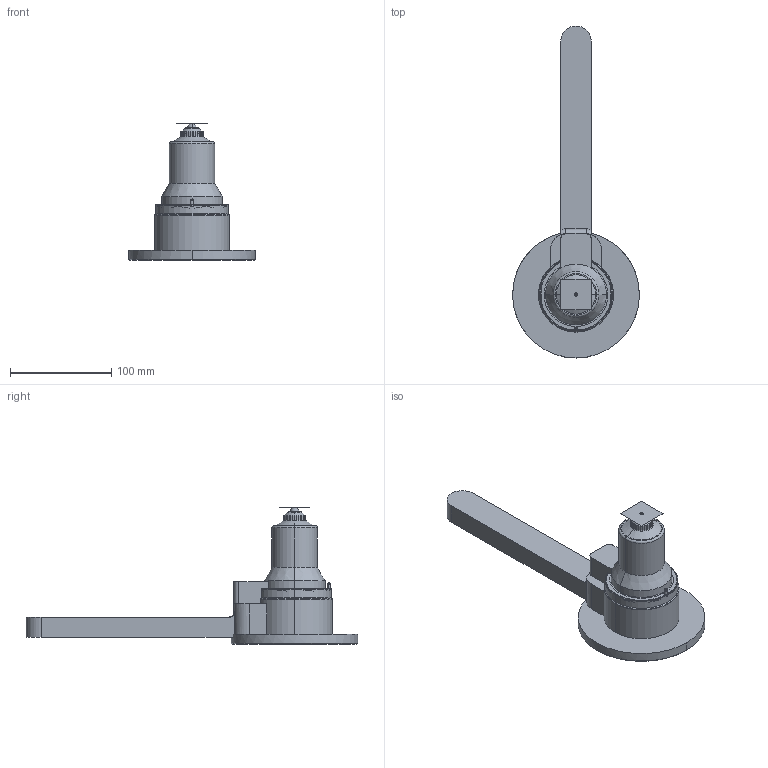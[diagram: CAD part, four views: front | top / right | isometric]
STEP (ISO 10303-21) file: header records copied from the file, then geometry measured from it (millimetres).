
FILE_DESCRIPTION (( 'STEP AP214' ), '1' );
FILE_NAME ('16S-06-080-TTW.STEP', '2021-07-15T13:40:47', ( '' ), ( '' ), 'SwSTEP 2.0', 'SolidWorks 2018', '' );
FILE_SCHEMA (( 'AUTOMOTIVE_DESIGN' ));
Length unit declared in the file: millimetre
Products named in the file (3): nozzle_16S-06-080-TTW; 16S-06-080-TTW; cutout_12S-06-080-TTW
Assembly tree (2 placements, depth 2):
  16S-06-080-TTW
    nozzle_16S-06-080-TTW
    cutout_12S-06-080-TTW
Bounding box: 125 x 327.5 x 135 mm (x, y, z)
Volume: 567883.6 mm3; surface area: 128136 mm2
Topology: 1 solids, 10 shells, 809 faces, 2147 edges, 1334 vertices
Faces by surface type: plane 271, cylinder 248, cone 123, bspline 94, torus 68, sphere 5
Entity records: 39002 total; most frequent: CARTESIAN_POINT 19201, ORIENTED_EDGE 4264, DIRECTION 3953, EDGE_CURVE 2134, AXIS2_PLACEMENT_3D 1532, VERTEX_POINT 1334, VECTOR 889, LINE 889
